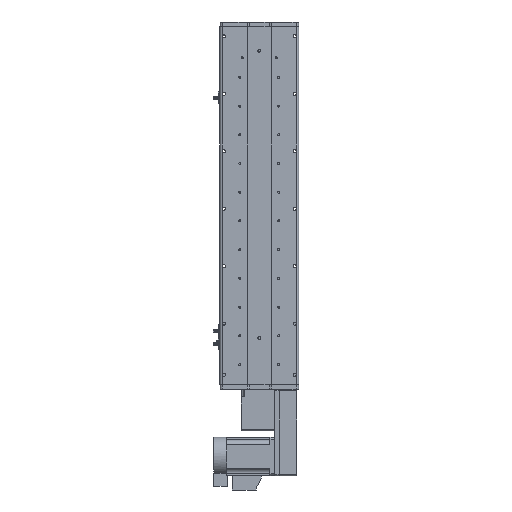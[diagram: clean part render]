
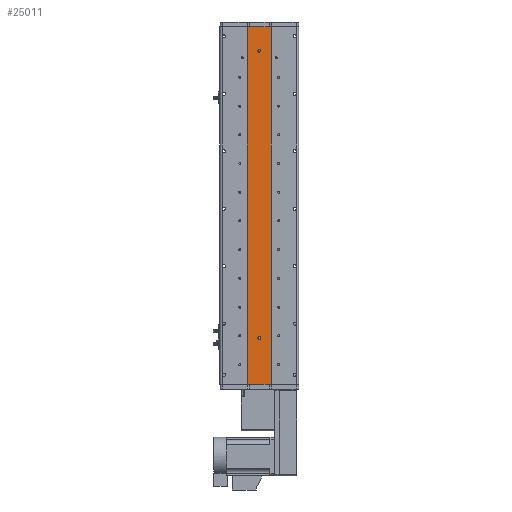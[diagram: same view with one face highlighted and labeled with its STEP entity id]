
A CAD part, front view. The second image highlights one B-rep face of the part: STEP entity #25011.
In plain terms, the highlighted planar face has unit normal (0, -1, 0).
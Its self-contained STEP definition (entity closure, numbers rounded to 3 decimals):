
#555 = AXIS2_PLACEMENT_3D ( 'NONE', #3108, #27412, #61132 ) ;
#961 = CARTESIAN_POINT ( 'NONE',  ( 25., 1., -373.5 ) ) ;
#1177 = DIRECTION ( 'NONE',  ( 0., -1., 0. ) ) ;
#1382 = LINE ( 'NONE', #13141, #12684 ) ;
#3108 = CARTESIAN_POINT ( 'NONE',  ( 25., 1., 373.5 ) ) ;
#3634 = EDGE_CURVE ( 'NONE', #32060, #18378, #59080, .T. ) ;
#3810 = CARTESIAN_POINT ( 'NONE',  ( -25., 1., 373.5 ) ) ;
#4076 = CARTESIAN_POINT ( 'NONE',  ( 25., 1., -373.5 ) ) ;
#4368 = CARTESIAN_POINT ( 'NONE',  ( -25., 1., -373.5 ) ) ;
#4475 = ORIENTED_EDGE ( 'NONE', *, *, #48289, .F. ) ;
#6021 = VERTEX_POINT ( 'NONE', #25884 ) ;
#7852 = ORIENTED_EDGE ( 'NONE', *, *, #32595, .F. ) ;
#9544 = CIRCLE ( 'NONE', #49543, 3. ) ;
#11067 = CIRCLE ( 'NONE', #28285, 3. ) ;
#12113 = DIRECTION ( 'NONE',  ( 0., -1., 0. ) ) ;
#12684 = VECTOR ( 'NONE', #51788, 1000. ) ;
#12814 = PLANE ( 'NONE',  #555 ) ;
#12847 = CARTESIAN_POINT ( 'NONE',  ( 0., 1., 320.5 ) ) ;
#13141 = CARTESIAN_POINT ( 'NONE',  ( 25., 1., 373.5 ) ) ;
#15276 = ORIENTED_EDGE ( 'NONE', *, *, #51464, .F. ) ;
#16893 = LINE ( 'NONE', #60192, #38053 ) ;
#16964 = EDGE_CURVE ( 'NONE', #29908, #17453, #16893, .T. ) ;
#17453 = VERTEX_POINT ( 'NONE', #51116 ) ;
#17657 = AXIS2_PLACEMENT_3D ( 'NONE', #19519, #53350, #24421 ) ;
#17879 = CARTESIAN_POINT ( 'NONE',  ( 0., 1., -273.5 ) ) ;
#18049 = FACE_BOUND ( 'NONE', #47080, .T. ) ;
#18378 = VERTEX_POINT ( 'NONE', #961 ) ;
#19519 = CARTESIAN_POINT ( 'NONE',  ( 0., 1., 323.5 ) ) ;
#21415 = ORIENTED_EDGE ( 'NONE', *, *, #16964, .F. ) ;
#23420 = VERTEX_POINT ( 'NONE', #17879 ) ;
#23747 = CARTESIAN_POINT ( 'NONE',  ( -25., 1., 373.5 ) ) ;
#24421 = DIRECTION ( 'NONE',  ( 0., 0., -1. ) ) ;
#24463 = AXIS2_PLACEMENT_3D ( 'NONE', #26371, #60109, #31221 ) ;
#24764 = LINE ( 'NONE', #3810, #60187 ) ;
#24879 = EDGE_CURVE ( 'NONE', #43125, #47982, #35482, .T. ) ;
#25011 = ADVANCED_FACE ( 'NONE', ( #42274, #18049, #30916 ), #12814, .F. ) ;
#25884 = CARTESIAN_POINT ( 'NONE',  ( 0., 1., -279.5 ) ) ;
#26371 = CARTESIAN_POINT ( 'NONE',  ( 0., 1., 323.5 ) ) ;
#27342 = EDGE_CURVE ( 'NONE', #47982, #43125, #30559, .T. ) ;
#27412 = DIRECTION ( 'NONE',  ( 0., 1., 0. ) ) ;
#28285 = AXIS2_PLACEMENT_3D ( 'NONE', #30137, #1177, #34972 ) ;
#29491 = EDGE_LOOP ( 'NONE', ( #46600, #45044 ) ) ;
#29908 = VERTEX_POINT ( 'NONE', #23747 ) ;
#30017 = ORIENTED_EDGE ( 'NONE', *, *, #57271, .T. ) ;
#30137 = CARTESIAN_POINT ( 'NONE',  ( 0., 1., -276.5 ) ) ;
#30559 = CIRCLE ( 'NONE', #17657, 3. ) ;
#30916 = FACE_OUTER_BOUND ( 'NONE', #58697, .T. ) ;
#31221 = DIRECTION ( 'NONE',  ( 0., 0., -1. ) ) ;
#31309 = DIRECTION ( 'NONE',  ( 1., 0., 0. ) ) ;
#31449 = ORIENTED_EDGE ( 'NONE', *, *, #3634, .T. ) ;
#32060 = VERTEX_POINT ( 'NONE', #4368 ) ;
#32595 = EDGE_CURVE ( 'NONE', #17453, #18378, #1382, .T. ) ;
#34972 = DIRECTION ( 'NONE',  ( 0., 0., -1. ) ) ;
#35482 = CIRCLE ( 'NONE', #24463, 3. ) ;
#38053 = VECTOR ( 'NONE', #31309, 1000. ) ;
#41088 = CARTESIAN_POINT ( 'NONE',  ( 0., 1., -276.5 ) ) ;
#42274 = FACE_BOUND ( 'NONE', #29491, .T. ) ;
#43055 = CARTESIAN_POINT ( 'NONE',  ( 0., 1., 326.5 ) ) ;
#43125 = VERTEX_POINT ( 'NONE', #12847 ) ;
#45044 = ORIENTED_EDGE ( 'NONE', *, *, #27342, .F. ) ;
#45913 = DIRECTION ( 'NONE',  ( 0., 0., -1. ) ) ;
#46200 = VECTOR ( 'NONE', #47782, 1000. ) ;
#46600 = ORIENTED_EDGE ( 'NONE', *, *, #24879, .F. ) ;
#47080 = EDGE_LOOP ( 'NONE', ( #15276, #4475 ) ) ;
#47782 = DIRECTION ( 'NONE',  ( 1., 0., 0. ) ) ;
#47982 = VERTEX_POINT ( 'NONE', #43055 ) ;
#48289 = EDGE_CURVE ( 'NONE', #23420, #6021, #9544, .T. ) ;
#49543 = AXIS2_PLACEMENT_3D ( 'NONE', #41088, #12113, #45913 ) ;
#51116 = CARTESIAN_POINT ( 'NONE',  ( 25., 1., 373.5 ) ) ;
#51464 = EDGE_CURVE ( 'NONE', #6021, #23420, #11067, .T. ) ;
#51788 = DIRECTION ( 'NONE',  ( 0., 0., -1. ) ) ;
#53350 = DIRECTION ( 'NONE',  ( 0., -1., 0. ) ) ;
#57271 = EDGE_CURVE ( 'NONE', #29908, #32060, #24764, .T. ) ;
#58697 = EDGE_LOOP ( 'NONE', ( #31449, #7852, #21415, #30017 ) ) ;
#59080 = LINE ( 'NONE', #4076, #46200 ) ;
#60109 = DIRECTION ( 'NONE',  ( 0., -1., 0. ) ) ;
#60187 = VECTOR ( 'NONE', #61649, 1000. ) ;
#60192 = CARTESIAN_POINT ( 'NONE',  ( 25., 1., 373.5 ) ) ;
#61132 = DIRECTION ( 'NONE',  ( 0., 0., 1. ) ) ;
#61649 = DIRECTION ( 'NONE',  ( 0., 0., -1. ) ) ;
